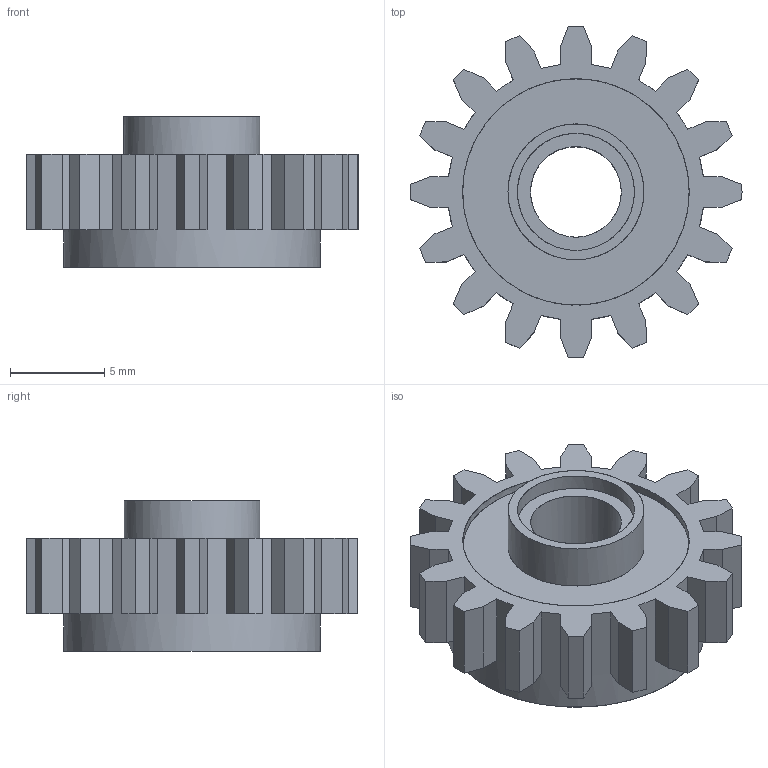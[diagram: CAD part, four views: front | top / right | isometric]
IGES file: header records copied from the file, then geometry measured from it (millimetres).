
Start section: C
Global section: file name: Gray_4237267_JC.iges; native system: By Siemens PLM Incorporated; preprocessor: XPlus GENERIC/IGES 26.1.183; author: Author; organization: Title; date: 20250721.235844; units: millimetre
Bounding box: 17.59 x 17.58 x 8 mm (x, y, z)
Surface area: 1299 mm2 (no closed solid volume)
Topology: 0 solids, 0 shells, 127 faces, 744 edges, 744 vertices
Faces by surface type: bspline 127
